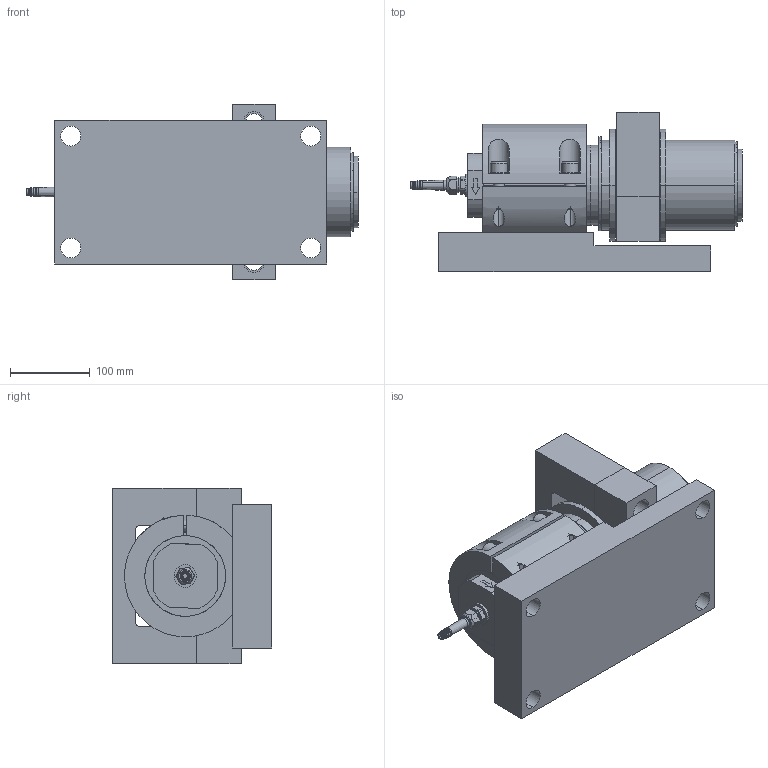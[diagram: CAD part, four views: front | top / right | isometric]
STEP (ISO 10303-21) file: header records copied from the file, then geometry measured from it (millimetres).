
FILE_DESCRIPTION (( 'STEP AP214' ), '1' );
FILE_NAME ('KIS-1 300 kN Module.STEP', '2021-06-30T14:23:06', ( '' ), ( '' ), 'SwSTEP 2.0', 'SolidWorks 2021', '' );
FILE_SCHEMA (( 'AUTOMOTIVE_DESIGN' ));
Length unit declared in the file: millimetre
Products named in the file (16): Tätning Hylsa Silikon^1157654 - KIS-1 200kN - Rostfri; 5178687r1; Pg9 - 1009.52 6_2_14; 5126448r5; 4071982r3; 4095995r3; Wiberger-sga_100; KIS-1 300 kN Module; 4079544r1; 1157654 - KIS-1 200kN - Rostfri; 6365347r1; MC6S M14x45_M14X45mm; 3053866r1; 5196893r1; Wiberger-sga_90; M26x1.5 - Pg9 - 6369829
Assembly tree (16 placements, depth 3):
  KIS-1 300 kN Module
    3053866r1
    1157654 - KIS-1 200kN - Rostfri
      4095995r3
      5196893r1
      Tätning Hylsa Silikon^1157654 - KIS-1 200kN - Rostfri
      M26x1.5 - Pg9 - 6369829
      Pg9 - 1009.52 6_2_14
    Wiberger-sga_90
    Wiberger-sga_100
    5126448r5
    4071982r3
    4079544r1
    5178687r1
    6365347r1
    MC6S M14x45_M14X45mm  x2
Bounding box: 415 x 199 x 220 mm (x, y, z)
Volume: 7712468.8 mm3; surface area: 829819.1 mm2
Topology: 15 solids, 18 shells, 643 faces, 1549 edges, 985 vertices
Faces by surface type: plane 286, cylinder 185, cone 85, bspline 65, torus 22
Entity records: 24525 total; most frequent: CARTESIAN_POINT 7052, DIRECTION 2963, ORIENTED_EDGE 2932, EDGE_CURVE 1466, AXIS2_PLACEMENT_3D 1070, VERTEX_POINT 944, VECTOR 823, LINE 823
